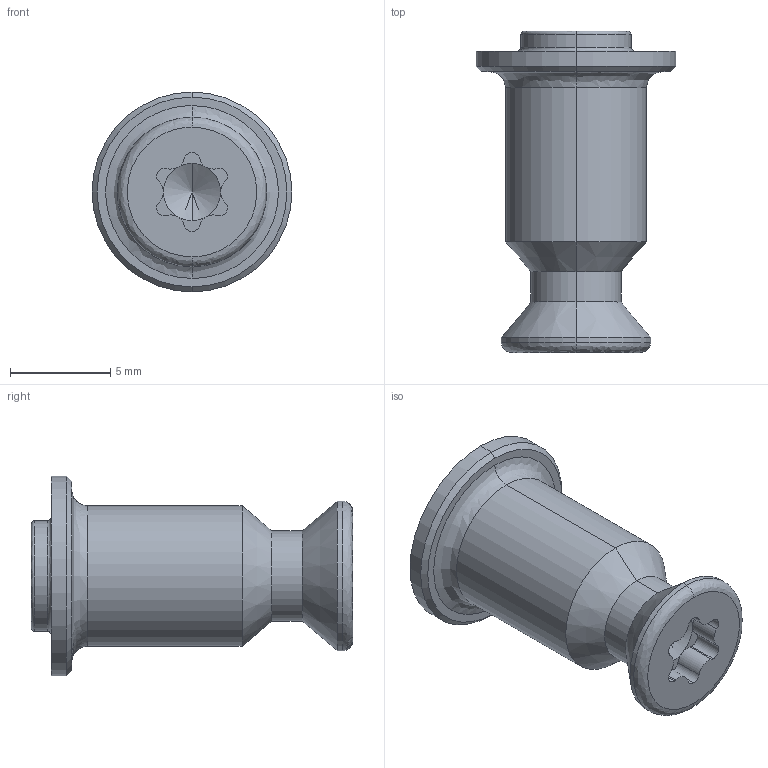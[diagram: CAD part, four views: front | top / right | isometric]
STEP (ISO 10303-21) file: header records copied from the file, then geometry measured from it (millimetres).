
FILE_DESCRIPTION (( 'STEP AP203' ), '1' );
FILE_NAME ('QS022-IF-M5.STEP', '2017-06-07T06:43:07', ( '' ), ( '' ), 'SwSTEP 2.0', 'SolidWorks 2017', '' );
FILE_SCHEMA (( 'CONFIG_CONTROL_DESIGN' ));
Length unit declared in the file: millimetre
Products named in the file (1): QS022-IF-M5
Bounding box: 9.95 x 16 x 9.95 mm (x, y, z)
Volume: 409.1 mm3; surface area: 653.5 mm2
Topology: 1 solids, 1 shells, 59 faces, 137 edges, 80 vertices
Faces by surface type: cylinder 29, cone 12, plane 10, bspline 8
Entity records: 1934 total; most frequent: CARTESIAN_POINT 521, DIRECTION 313, ORIENTED_EDGE 266, AXIS2_PLACEMENT_3D 136, EDGE_CURVE 133, CIRCLE 84, VERTEX_POINT 80, EDGE_LOOP 63
